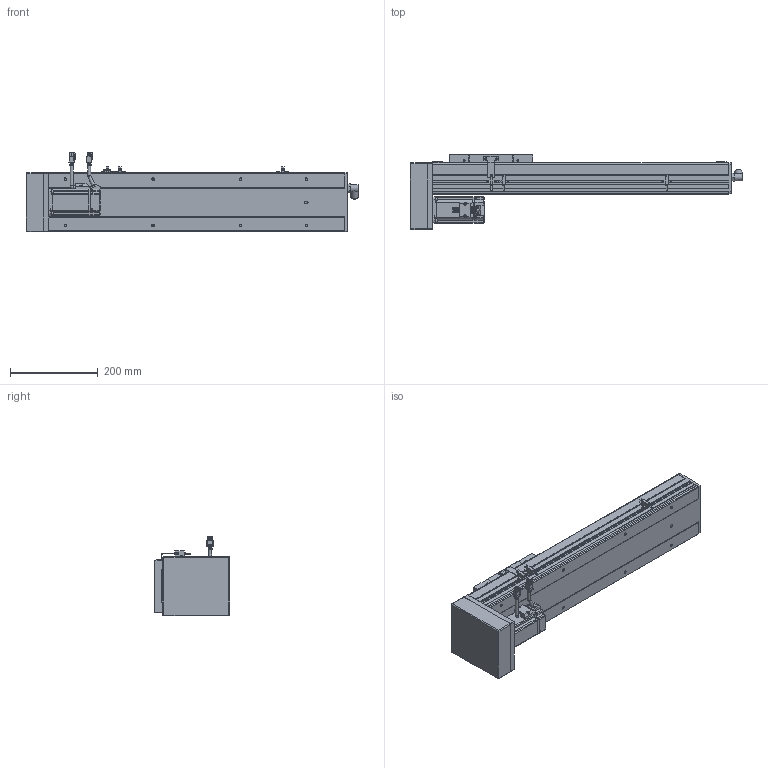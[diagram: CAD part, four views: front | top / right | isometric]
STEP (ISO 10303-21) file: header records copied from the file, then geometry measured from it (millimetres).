
FILE_DESCRIPTION(/* description */ ('STEP AP214'),/* implementation_level */ '2;1');
FILE_NAME(/* name */ 'PSC140-L05-S400-BM-P40-C1-N(0-P)',/* time_stamp */ '2022-06-13T03:20:46+02:00',/* author */ ('License CC BY-ND 4.0'),/* organization */ ('CADENAS'),/* preprocessor_version */ 'ST-DEVELOPER v18.102',/* originating_system */ 'PARTsolutions',/* authorisation */ ' ');
FILE_SCHEMA (('AUTOMOTIVE_DESIGN {1 0 10303 214 3 1 1}'));
Length unit declared in the file: millimetre
Products named in the file (11): PSC140-L05-S400-BM-P40-C1-N(0-P); P40-s2; P40-c2; P40-s1; P40-c1; P40-p1; PSC140-BM-body2; PSC140-sensor; PSC140-BM-SLIDER; PSC140-S400-BM-P40-C1-P_BODY1; PSC140-L05-S400-BM-P40-C1-N(0-P)_dummy
Assembly tree (12 placements, depth 2):
  PSC140-L05-S400-BM-P40-C1-N(0-P)
    P40-s2
    P40-c2
    P40-s1
    P40-c1
    P40-p1
    PSC140-BM-body2
    PSC140-sensor  x3
    PSC140-BM-SLIDER
    PSC140-S400-BM-P40-C1-P_BODY1
    PSC140-L05-S400-BM-P40-C1-N(0-P)_dummy
Bounding box: 758 x 171.5 x 182.48 mm (x, y, z)
Volume: 8301112.2 mm3; surface area: 525788.6 mm2
Topology: 11 solids, 11 shells, 1226 faces, 3175 edges, 2102 vertices
Faces by surface type: plane 858, cylinder 313, cone 36, torus 19
Full cylindrical faces by diameter (mm): 1 x8, 2.6 x10, 2.8 x3, 3.3 x8, 4.5 x12, 4.6 x3, 4.917 x12, 5 x4, 5.5 x8, 6 x11, 7 x10, 9 x2, 10 x1, 11 x1, 12 x1, 13.74 x1, 14 x1, 16.4 x2, 16.5 x1, 36 x1, 50 x2
Entity records: 34032 total; most frequent: CARTESIAN_POINT 5948, DIRECTION 5717, ORIENTED_EDGE 5538, EDGE_CURVE 2769, LINE 2105, VECTOR 2105, VERTEX_POINT 1922, AXIS2_PLACEMENT_3D 1806
